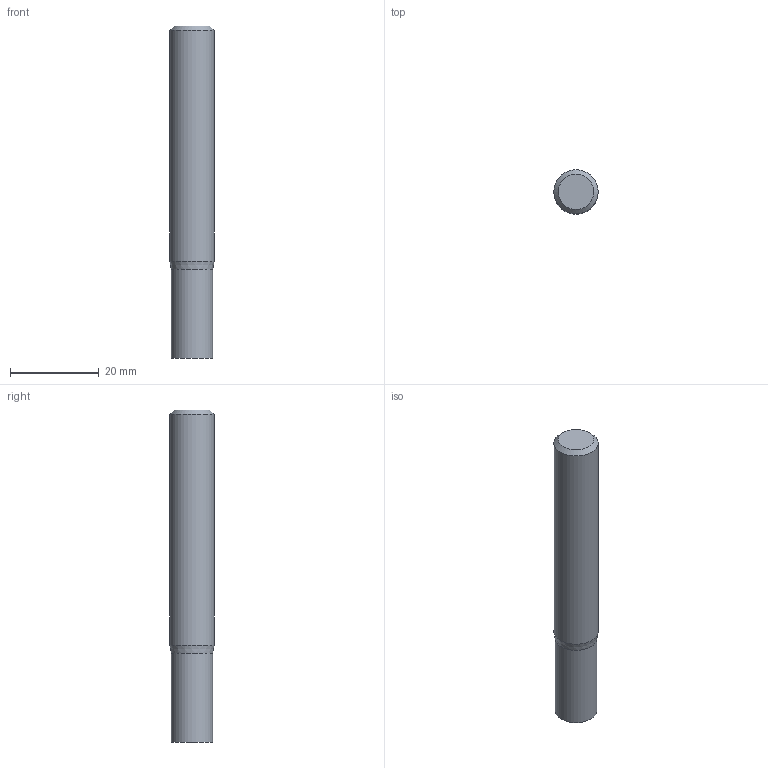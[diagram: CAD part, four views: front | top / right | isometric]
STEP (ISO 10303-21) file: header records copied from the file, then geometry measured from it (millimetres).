
FILE_DESCRIPTION((''),'2;1');
FILE_NAME('C:\Users\nsx150\AppData\Local\Temp\Mastercam 2021\98T1Q6BTT1\TEMP.step','2021-10-21T14:49:55',(''),(''),'STEP Write','Mastercam 2021 ... CNC Software, Inc.','');
FILE_SCHEMA(('AUTOMOTIVE_DESIGN'));
Length unit declared in the file: millimetre
Products named in the file (1): None
Bounding box: 10 x 10 x 75 mm (x, y, z)
Volume: 5684.2 mm3; surface area: 2584.5 mm2
Topology: 2 solids, 2 shells, 8 faces, 10 edges, 6 vertices
Faces by surface type: plane 4, cylinder 2, cone 2
Full cylindrical faces by diameter (mm): 9.4 x1, 10 x1
Entity records: 190 total; most frequent: DIRECTION 32, CARTESIAN_POINT 22, AXIS2_PLACEMENT_3D 16, ORIENTED_EDGE 12, EDGE_LOOP 12, STYLED_ITEM 11, ADVANCED_FACE 8, VERTEX_POINT 6
